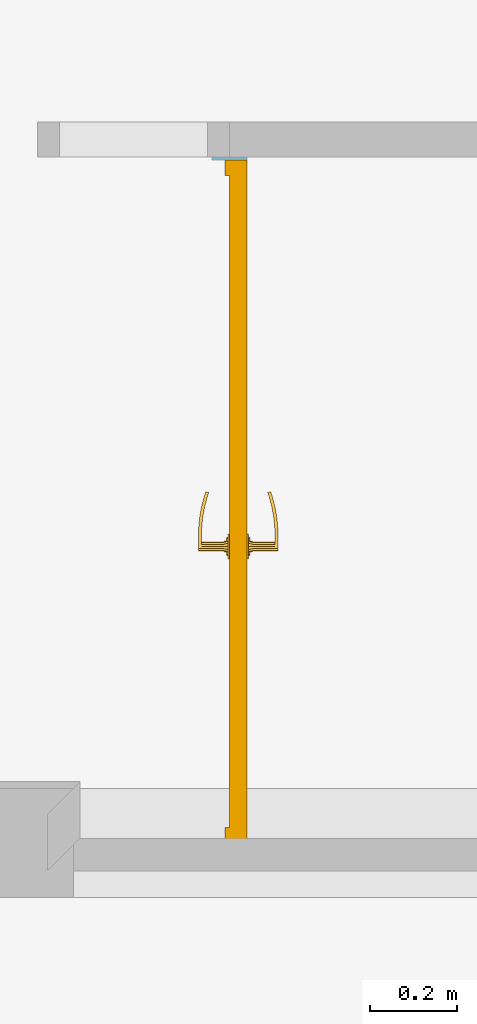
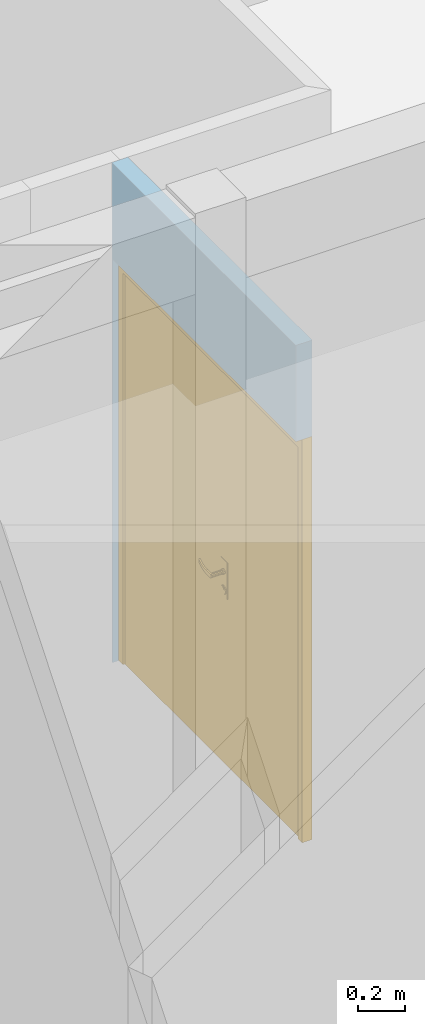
# One storey, part 41 of 91: 1 door, 1 opening, plus 1 element that does not belong to this part.
"""IFC2X3 building model written with IfcOpenShell, lengths in metres."""

from ifc_helpers import new_model, entity, si_unit, converted_unit, derived_unit, money_unit, direction, frame, origin_with_axes, origin_2d_with_axis, place, context, subcontext, project, spatial, polyline, rectangle, outline, extrude, open_shell, faceted_brep, surface_model, material, layer, layer_set, layer_usage, type_object, element, fill, save


model = new_model("IFC2X3")

# Units and contexts
model_context = context("Model", 3, precision=1e-05, world=origin_with_axes(), true_north=direction((0.0, 1.0)))
body_context = subcontext(model_context, "Body", "Model", "MODEL_VIEW")
ifc_project = project(units=[si_unit("LENGTHUNIT", "METRE"), si_unit("AREAUNIT", "SQUARE_METRE"), si_unit("VOLUMEUNIT", "CUBIC_METRE"), converted_unit("PLANEANGLEUNIT", "DEGREE", entity("IfcPlaneAngleMeasure", 0.0174532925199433), si_unit("PLANEANGLEUNIT", "RADIAN"), dimensions=[0, 0, 0, 0, 0, 0, 0]), money_unit("EUR"), converted_unit("TIMEUNIT", "Year", entity("IfcTimeMeasure", 31557600.0), si_unit("TIMEUNIT", "SECOND"), dimensions=[0, 0, 1, 0, 0, 0, 0]), si_unit("MASSUNIT", "GRAM", prefix="KILO"), si_unit("THERMODYNAMICTEMPERATUREUNIT", "DEGREE_CELSIUS"), si_unit("LUMINOUSINTENSITYUNIT", "LUMEN"), si_unit("ENERGYUNIT", "JOULE", prefix="MEGA"), derived_unit("THERMALCONDUCTANCEUNIT", [(si_unit("POWERUNIT", "WATT"), 1), (si_unit("LENGTHUNIT", "METRE"), -1), (si_unit("THERMODYNAMICTEMPERATUREUNIT", "KELVIN"), -1)]), derived_unit("SPECIFICHEATCAPACITYUNIT", [(si_unit("ENERGYUNIT", "JOULE"), 1), (si_unit("MASSUNIT", "GRAM", prefix="KILO"), -1), (si_unit("THERMODYNAMICTEMPERATUREUNIT", "KELVIN"), -1)]), derived_unit("MASSDENSITYUNIT", [(si_unit("MASSUNIT", "GRAM", prefix="KILO"), 1), (si_unit("VOLUMEUNIT", "CUBIC_METRE"), -1)])], contexts=[model_context])

# Site, building, storey
site_placement = place(None, origin_with_axes())
site = spatial("IfcSite", under=ifc_project, at=site_placement, Name="Site", CompositionType="ELEMENT")
building_placement = place(site_placement, origin_with_axes())
building = spatial("IfcBuilding", under=site, at=building_placement, Name="Bâtiment", CompositionType="ELEMENT")
storey_placement = place(building_placement, origin_with_axes())
storey = spatial("IfcBuildingStorey", under=building, at=storey_placement, Name="RDC", CompositionType="ELEMENT", Elevation=0.0)

# Wall, opening, door
ifc_material = material(Name="*PLAQUE DE PLATRE - CLOISON")
ifc_layer = layer(ifc_material, 0.08, ventilated="UNKNOWN")
ifc_layer_set = layer_set([ifc_layer], Name="*PLAQUE DE PLATRE - CLOISON 0.08")
ifc_layer_usage = layer_usage(ifc_layer_set, "AXIS2", "POSITIVE", 0.0)
wall_type = type_object("IfcWallType", Name="*PLAQUE DE PLATRE - CLOISON 80", PredefinedType="NOTDEFINED")
wall_placement = place(storey_placement, frame((43.94299999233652, -16.7575645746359, 0.0), z_axis=(0.0, 0.0, 1.0), x_axis=(0.0, 1.0, 0.0)))
wall = element("IfcWallStandardCase", 1, at=wall_placement, inside=storey, type_object=wall_type, material=ifc_layer_usage, Name="Cloison modulaire", context=body_context, shape_type="SweptSolid", body=[
    extrude(outline(polyline([(0.0, 0.0), (1.571002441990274, 0.0), (1.571002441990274, 0.0799999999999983), (0.0, 0.0799999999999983), (0.0, 0.0)])), origin_with_axes(), (0.0, 0.0, 1.0), 2.600000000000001),
])
opening_placement = place(wall_placement, frame((0.7820012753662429, 0.0, 0.0), z_axis=(0.0, 0.0, 1.0), x_axis=(1.0, 0.0, 0.0)))
opening = element("IfcOpeningElement", 2, at=opening_placement, cuts=wall, Name="Pi.03", context=body_context, shape_type="SweptSolid", body=[
    extrude(rectangle(XDim=1.564002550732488, YDim=2.1, at=origin_2d_with_axis()), frame((0.0, 0.0799999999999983, 1.05), z_axis=(0.0, 1.0, 0.0), x_axis=(1.0, 0.0, 0.0)), (0.0, 0.0, -1.0), 0.24),
])
door_style = type_object("IfcDoorStyle", Name="Porte double 27", ConstructionType="NOTDEFINED", OperationType="DOUBLE_DOOR_SINGLE_SWING", ParameterTakesPrecedence=False, Sizeable=False)
door_placement = place(opening_placement, frame((0.7820012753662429, 0.0, 0.0), z_axis=(0.0, 0.0, 1.0), x_axis=(-1.0, 0.0, 0.0)))
door = element("IfcDoor", 3, at=door_placement, inside=storey, type_object=door_style, Name="Pi.03", OverallHeight=2.1, OverallWidth=1.564, context=body_context, shape_type="SurfaceModel", body=[
    faceted_brep([(1.564002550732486, 0.0, 0.0), (1.564002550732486, -0.04999999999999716, 0.0), (1.529002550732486, -0.04999999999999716, 0.0), (1.529002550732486, 0.0, 0.0), (1.564002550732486, 0.0, 2.04), (1.564002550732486, -0.04999999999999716, 2.04), (1.529002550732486, -0.04999999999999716, 2.04), (1.529002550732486, 0.0, 2.04)], [[[0, 1, 2, 3]], [[4, 5, 1, 0]], [[1, 5, 6, 2]], [[3, 2, 6, 7]], [[0, 3, 7, 4]], [[7, 6, 5, 4]]]),
    faceted_brep([(0.0, 0.0, 0.0), (0.0, -0.04999999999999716, 0.0), (0.0, -0.04999999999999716, 2.04), (0.0, 0.0, 2.04), (0.03500000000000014, 0.0, 0.0), (0.03500000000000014, -0.04999999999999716, 0.0), (0.03500000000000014, -0.04999999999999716, 2.04), (0.03500000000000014, 0.0, 2.04)], [[[0, 1, 2, 3]], [[4, 5, 1, 0]], [[1, 5, 6, 2]], [[3, 2, 6, 7]], [[0, 3, 7, 4]], [[7, 6, 5, 4]]]),
    faceted_brep([(1.564002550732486, 0.0, 2.1), (1.564002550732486, -0.04999999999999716, 2.1), (1.564002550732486, -0.04999999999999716, 2.04), (1.564002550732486, 0.0, 2.04), (0.0, 0.0, 2.1), (0.0, -0.04999999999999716, 2.1), (0.0, -0.04999999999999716, 2.04), (0.03500000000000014, -0.04999999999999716, 2.04), (1.529002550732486, -0.04999999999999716, 2.04), (1.529002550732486, 0.0, 2.04), (0.03500000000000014, 0.0, 2.04), (0.0, 0.0, 2.04)], [[[0, 1, 2, 3]], [[4, 5, 1, 0]], [[1, 5, 6, 7, 8, 2]], [[3, 2, 8, 9]], [[0, 3, 9, 10, 11, 4]], [[11, 6, 5, 4]], [[10, 7, 6, 11]], [[9, 8, 7, 10]]]),
    faceted_brep([(0.9134999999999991, -0.03999999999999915, 1.06), (0.8565000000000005, -0.03999999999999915, 1.06), (0.8565000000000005, -0.04299999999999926, 1.06), (0.9134999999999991, -0.04299999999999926, 1.06), (0.9134999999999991, -0.03999999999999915, 0.87), (0.8565000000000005, -0.03999999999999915, 0.87), (0.8565000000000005, -0.04299999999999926, 0.87), (0.9134999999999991, -0.04299999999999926, 0.87)], [[[0, 1, 2, 3]], [[0, 4, 5, 1]], [[1, 5, 6, 2]], [[3, 2, 6, 7]], [[4, 0, 3, 7]], [[5, 4, 7, 6]]]),
    faceted_brep([(0.884999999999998, -0.1039999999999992, 0.99), (0.8900000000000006, -0.1039999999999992, 0.9913397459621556), (0.8900000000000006, -0.1109999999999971, 0.9913397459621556), (0.884999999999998, -0.1109999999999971, 0.99), (0.8599999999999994, -0.1039999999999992, 0.99), (0.8599999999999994, -0.1039999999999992, 1.01), (0.884999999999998, -0.1039999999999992, 1.01), (0.8900000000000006, -0.1039999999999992, 1.008660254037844), (0.8936602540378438, -0.1039999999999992, 1.005), (0.8949999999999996, -0.1039999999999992, 1.0), (0.8936602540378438, -0.1039999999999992, 0.995), (0.8936602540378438, -0.1109999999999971, 0.995), (0.8949999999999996, -0.1109999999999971, 1.0), (0.8936602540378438, -0.1109999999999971, 1.005), (0.8900000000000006, -0.1109999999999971, 1.008660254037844), (0.884999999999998, -0.1109999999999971, 1.01), (0.8599999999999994, -0.1109999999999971, 1.01), (0.8599999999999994, -0.1109999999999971, 0.99)], [[[0, 1, 2, 3]], [[0, 4, 5, 6, 7, 8, 9, 10, 1]], [[1, 10, 11, 2]], [[3, 2, 11, 12, 13, 14, 15, 16, 17]], [[4, 0, 3, 17]], [[5, 4, 17, 16]], [[6, 5, 16, 15]], [[7, 6, 15, 14]], [[8, 7, 14, 13]], [[9, 8, 13, 12]], [[10, 9, 12, 11]]]),
    surface_model("IfcShellBasedSurfaceModel", [(0.8599999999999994, -0.1039999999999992, 1.01), (0.8469017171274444, -0.1039999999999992, 1.009607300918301), (0.8465960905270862, -0.1109999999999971, 1.009607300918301), (0.8599999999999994, -0.1039999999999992, 0.99), (0.8469017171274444, -0.1039999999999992, 0.9903926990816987), (0.819890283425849, -0.1086635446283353, 1.008821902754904), (0.8599999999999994, -0.1109999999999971, 1.01), (0.8599999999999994, -0.1109999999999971, 0.99), (0.8208048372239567, -0.1017168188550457, 0.9911780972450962), (0.8208048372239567, -0.1017168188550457, 1.008821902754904), (0.819890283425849, -0.1086635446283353, 0.9911780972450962), (0.8465960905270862, -0.1109999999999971, 0.9903926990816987), (0.795006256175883, -0.09716783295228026, 0.9919634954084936), (0.795006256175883, -0.09716783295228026, 1.008036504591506), (0.7934897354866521, -0.1040084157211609, 1.008036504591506), (0.7934897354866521, -0.1040084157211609, 0.9919634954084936), (0.7697023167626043, -0.09038766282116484, 0.9927488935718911), (0.7697023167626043, -0.09038766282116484, 1.007251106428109), (0.7675953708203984, -0.09707004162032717, 1.007251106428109), (0.7675953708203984, -0.09707004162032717, 0.9927488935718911), (0.7618294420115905, -0.08752217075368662, 0.993), (0.7618294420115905, -0.08752217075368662, 1.007), (0.7595387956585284, -0.09413768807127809, 1.007), (0.7595387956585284, -0.09413768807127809, 0.993)], [open_shell([[[0, 1, 2]], [[0, 3, 4, 1]], [[1, 5, 2]], [[0, 2, 6]], [[4, 3, 7]], [[1, 4, 8, 9]], [[1, 9, 5]], [[2, 5, 10, 11]], [[6, 2, 11, 7]], [[4, 7, 11]], [[8, 4, 11]], [[9, 8, 12, 13]], [[9, 14, 5]], [[5, 14, 15, 10]], [[8, 11, 10]], [[12, 8, 10]], [[13, 12, 16, 17]], [[9, 13, 14]], [[14, 18, 19, 15]], [[12, 10, 15]], [[16, 12, 15]], [[17, 16, 20, 21]], [[13, 17, 18]], [[13, 18, 14]], [[18, 22, 23, 19]], [[16, 15, 19]], [[20, 16, 19]], [[21, 20, 23, 22]], [[17, 21, 22]], [[17, 22, 18]], [[20, 19, 23]]])]),
    faceted_brep([(0.8746076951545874, -0.05299999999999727, 0.994), (0.8729999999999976, -0.05299999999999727, 1.0), (0.8719999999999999, -0.04299999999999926, 1.0), (0.8737416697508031, -0.04299999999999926, 0.9935), (0.8789999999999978, -0.05299999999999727, 0.9896076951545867), (0.884999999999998, -0.05299999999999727, 0.988), (0.8909999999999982, -0.05299999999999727, 0.9896076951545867), (0.8953923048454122, -0.05299999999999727, 0.994), (0.8969999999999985, -0.05299999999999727, 1.0), (0.8953923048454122, -0.05299999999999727, 1.006), (0.8909999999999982, -0.05299999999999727, 1.010392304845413), (0.884999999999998, -0.05299999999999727, 1.012), (0.8789999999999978, -0.05299999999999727, 1.010392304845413), (0.8746076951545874, -0.05299999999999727, 1.006), (0.8737416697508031, -0.04299999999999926, 1.0065), (0.878499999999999, -0.04299999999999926, 1.011258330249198), (0.884999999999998, -0.04299999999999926, 1.013), (0.8915000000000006, -0.04299999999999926, 1.011258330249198), (0.8962583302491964, -0.04299999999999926, 1.0065), (0.8979999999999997, -0.04299999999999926, 1.0), (0.8962583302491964, -0.04299999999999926, 0.9934999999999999), (0.8915000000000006, -0.04299999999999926, 0.9887416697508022), (0.884999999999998, -0.04299999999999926, 0.987), (0.878499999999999, -0.04299999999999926, 0.9887416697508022)], [[[0, 1, 2, 3]], [[1, 0, 4, 5, 6, 7, 8, 9, 10, 11, 12, 13]], [[1, 13, 14, 2]], [[2, 14, 15, 16, 17, 18, 19, 20, 21, 22, 23, 3]], [[4, 0, 3, 23]], [[5, 4, 23, 22]], [[6, 5, 22, 21]], [[7, 6, 21, 20]], [[8, 7, 20, 19]], [[9, 8, 19, 18]], [[10, 9, 18, 17]], [[11, 10, 17, 16]], [[12, 11, 16, 15]], [[13, 12, 15, 14]]]),
    faceted_brep([(0.86767949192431, -0.04699999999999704, 0.895), (0.8649999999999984, -0.04699999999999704, 0.905), (0.8629999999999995, -0.04299999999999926, 0.905), (0.8659474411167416, -0.04299999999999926, 0.894), (0.875, -0.04699999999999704, 0.8876794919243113), (0.884999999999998, -0.04699999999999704, 0.885), (0.8949999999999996, -0.04699999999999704, 0.8876794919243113), (0.9023205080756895, -0.04699999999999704, 0.895), (0.9049999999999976, -0.04699999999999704, 0.905), (0.9023205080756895, -0.04699999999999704, 0.915), (0.8949999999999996, -0.04699999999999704, 0.9223205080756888), (0.884999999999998, -0.04699999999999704, 0.925), (0.875, -0.04699999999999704, 0.9223205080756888), (0.86767949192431, -0.04699999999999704, 0.915), (0.8659474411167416, -0.04299999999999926, 0.916), (0.8739999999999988, -0.04299999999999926, 0.9240525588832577), (0.884999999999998, -0.04299999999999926, 0.927), (0.8960000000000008, -0.04299999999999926, 0.9240525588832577), (0.904052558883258, -0.04299999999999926, 0.916), (0.907, -0.04299999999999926, 0.905), (0.904052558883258, -0.04299999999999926, 0.894), (0.8960000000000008, -0.04299999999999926, 0.8859474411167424), (0.884999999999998, -0.04299999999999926, 0.883), (0.8739999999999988, -0.04299999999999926, 0.8859474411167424)], [[[0, 1, 2, 3]], [[1, 0, 4, 5, 6, 7, 8, 9, 10, 11, 12, 13]], [[1, 13, 14, 2]], [[2, 14, 15, 16, 17, 18, 19, 20, 21, 22, 23, 3]], [[4, 0, 3, 23]], [[5, 4, 23, 22]], [[6, 5, 22, 21]], [[7, 6, 21, 20]], [[8, 7, 20, 19]], [[9, 8, 19, 18]], [[10, 9, 18, 17]], [[11, 10, 17, 16]], [[12, 11, 16, 15]], [[13, 12, 15, 14]]]),
    faceted_brep([(0.8800502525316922, -0.04899999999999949, 0.9090502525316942), (0.8780000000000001, -0.04899999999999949, 0.914), (0.8769999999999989, -0.04699999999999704, 0.914), (0.8793431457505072, -0.04699999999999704, 0.9083431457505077), (0.884999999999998, -0.04899999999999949, 0.907), (0.8899497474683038, -0.04899999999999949, 0.9090502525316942), (0.8919999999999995, -0.04899999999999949, 0.914), (0.8899497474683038, -0.04899999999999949, 0.9189497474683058), (0.884999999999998, -0.04899999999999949, 0.921), (0.8800502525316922, -0.04899999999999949, 0.9189497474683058), (0.8793431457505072, -0.04699999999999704, 0.9196568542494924), (0.884999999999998, -0.04699999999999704, 0.922), (0.8906568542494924, -0.04699999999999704, 0.9196568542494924), (0.8930000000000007, -0.04699999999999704, 0.914), (0.8906568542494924, -0.04699999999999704, 0.9083431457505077), (0.884999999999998, -0.04699999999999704, 0.906)], [[[0, 1, 2, 3]], [[1, 0, 4, 5, 6, 7, 8, 9]], [[1, 9, 10, 2]], [[2, 10, 11, 12, 13, 14, 15, 3]], [[4, 0, 3, 15]], [[5, 4, 15, 14]], [[6, 5, 14, 13]], [[7, 6, 13, 12]], [[8, 7, 12, 11]], [[9, 8, 11, 10]]]),
    faceted_brep([(0.884999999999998, -0.05299999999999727, 1.01), (0.879999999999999, -0.05299999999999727, 1.008660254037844), (0.879999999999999, -0.1039999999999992, 1.008660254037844), (0.884999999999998, -0.1039999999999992, 1.01), (0.8900000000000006, -0.05299999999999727, 1.008660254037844), (0.8936602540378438, -0.05299999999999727, 1.005), (0.8949999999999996, -0.05299999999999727, 1.0), (0.8936602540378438, -0.05299999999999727, 0.995), (0.8900000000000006, -0.05299999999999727, 0.9913397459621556), (0.884999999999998, -0.05299999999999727, 0.99), (0.879999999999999, -0.05299999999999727, 0.9913397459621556), (0.8763397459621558, -0.05299999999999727, 0.995), (0.875, -0.05299999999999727, 1.0), (0.8763397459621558, -0.05299999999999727, 1.005), (0.8763397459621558, -0.1039999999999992, 1.005), (0.875, -0.1039999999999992, 1.0), (0.8763397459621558, -0.1039999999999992, 0.995), (0.879999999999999, -0.1039999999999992, 0.9913397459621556), (0.884999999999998, -0.1039999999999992, 0.99), (0.8900000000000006, -0.1039999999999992, 0.9913397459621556), (0.8936602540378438, -0.1039999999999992, 0.995), (0.8949999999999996, -0.1039999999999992, 1.0), (0.8936602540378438, -0.1039999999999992, 1.005), (0.8900000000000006, -0.1039999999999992, 1.008660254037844)], [[[0, 1, 2, 3]], [[0, 4, 5, 6, 7, 8, 9, 10, 11, 12, 13, 1]], [[1, 13, 14, 2]], [[3, 2, 14, 15, 16, 17, 18, 19, 20, 21, 22, 23]], [[4, 0, 3, 23]], [[5, 4, 23, 22]], [[6, 5, 22, 21]], [[7, 6, 21, 20]], [[8, 7, 20, 19]], [[9, 8, 19, 18]], [[10, 9, 18, 17]], [[11, 10, 17, 16]], [[12, 11, 16, 15]], [[13, 12, 15, 14]]]),
    faceted_brep([(0.9134999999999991, 0.0, 1.06), (0.9134999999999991, 0.003000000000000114, 1.06), (0.8565000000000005, 0.003000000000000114, 1.06), (0.8565000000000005, 0.0, 1.06), (0.9134999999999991, 0.0, 0.87), (0.9134999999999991, 0.003000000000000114, 0.87), (0.8565000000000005, 0.003000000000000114, 0.87), (0.8565000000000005, 0.0, 0.87)], [[[0, 1, 2, 3]], [[4, 5, 1, 0]], [[1, 5, 6, 2]], [[3, 2, 6, 7]], [[0, 3, 7, 4]], [[7, 6, 5, 4]]]),
    faceted_brep([(0.884999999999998, 0.06400000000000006, 0.99), (0.884999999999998, 0.07099999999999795, 0.99), (0.8900000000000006, 0.07099999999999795, 0.9913397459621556), (0.8900000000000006, 0.06400000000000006, 0.9913397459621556), (0.8599999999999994, 0.06400000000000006, 0.99), (0.8599999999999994, 0.07099999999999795, 0.99), (0.8599999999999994, 0.07099999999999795, 1.01), (0.884999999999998, 0.07099999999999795, 1.01), (0.8900000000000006, 0.07099999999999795, 1.008660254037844), (0.8936602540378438, 0.07099999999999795, 1.005), (0.8949999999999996, 0.07099999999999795, 1.0), (0.8936602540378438, 0.07099999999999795, 0.995), (0.8936602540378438, 0.06400000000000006, 0.995), (0.8949999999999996, 0.06400000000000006, 1.0), (0.8936602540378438, 0.06400000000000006, 1.005), (0.8900000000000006, 0.06400000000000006, 1.008660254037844), (0.884999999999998, 0.06400000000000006, 1.01), (0.8599999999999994, 0.06400000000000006, 1.01)], [[[0, 1, 2, 3]], [[4, 5, 1, 0]], [[1, 5, 6, 7, 8, 9, 10, 11, 2]], [[3, 2, 11, 12]], [[0, 3, 12, 13, 14, 15, 16, 17, 4]], [[17, 6, 5, 4]], [[16, 7, 6, 17]], [[15, 8, 7, 16]], [[14, 9, 8, 15]], [[13, 10, 9, 14]], [[12, 11, 10, 13]]]),
    surface_model("IfcShellBasedSurfaceModel", [(0.8599999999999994, 0.06400000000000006, 1.01), (0.8465960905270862, 0.07099999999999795, 1.009607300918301), (0.8469017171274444, 0.06400000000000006, 1.009607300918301), (0.8599999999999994, 0.07099999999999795, 1.01), (0.819890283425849, 0.06866354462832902, 1.008821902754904), (0.8469017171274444, 0.06400000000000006, 0.9903926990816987), (0.8599999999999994, 0.06400000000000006, 0.99), (0.8599999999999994, 0.07099999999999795, 0.99), (0.8465960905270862, 0.07099999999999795, 0.9903926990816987), (0.819890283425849, 0.06866354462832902, 0.9911780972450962), (0.8208048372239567, 0.06171681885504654, 1.008821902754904), (0.8208048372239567, 0.06171681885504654, 0.9911780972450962), (0.7934897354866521, 0.06400841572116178, 0.9919634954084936), (0.7934897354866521, 0.06400841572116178, 1.008036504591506), (0.795006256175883, 0.05716783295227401, 1.008036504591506), (0.795006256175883, 0.05716783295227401, 0.9919634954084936), (0.7675953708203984, 0.05707004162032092, 0.9927488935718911), (0.7675953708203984, 0.05707004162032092, 1.007251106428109), (0.7697023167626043, 0.05038766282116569, 1.007251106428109), (0.7697023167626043, 0.05038766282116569, 0.9927488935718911), (0.7595387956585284, 0.05413768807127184, 0.993), (0.7595387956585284, 0.05413768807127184, 1.007), (0.7618294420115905, 0.04752217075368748, 1.007), (0.7618294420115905, 0.04752217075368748, 0.993)], [open_shell([[[0, 1, 2]], [[0, 3, 1]], [[2, 1, 4]], [[0, 2, 5, 6]], [[3, 7, 8, 1]], [[1, 8, 9, 4]], [[2, 4, 10]], [[2, 10, 11, 5]], [[5, 7, 6]], [[5, 8, 7]], [[11, 9, 8]], [[4, 9, 12, 13]], [[10, 4, 13]], [[10, 14, 15, 11]], [[11, 8, 5]], [[15, 9, 11]], [[15, 12, 9]], [[13, 12, 16, 17]], [[10, 13, 14]], [[14, 18, 19, 15]], [[19, 12, 15]], [[19, 16, 12]], [[17, 16, 20, 21]], [[14, 13, 17]], [[14, 17, 18]], [[18, 22, 23, 19]], [[23, 16, 19]], [[23, 20, 16]], [[22, 21, 20, 23]], [[18, 17, 21]], [[18, 21, 22]]])]),
    faceted_brep([(0.8746076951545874, 0.01299999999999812, 0.994), (0.8737416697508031, 0.003000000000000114, 0.9935), (0.8719999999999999, 0.003000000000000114, 1.0), (0.8729999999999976, 0.01299999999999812, 1.0), (0.8789999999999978, 0.01299999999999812, 0.9896076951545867), (0.878499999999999, 0.003000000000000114, 0.9887416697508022), (0.884999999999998, 0.003000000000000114, 0.987), (0.8915000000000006, 0.003000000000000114, 0.9887416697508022), (0.8962583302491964, 0.003000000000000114, 0.9934999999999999), (0.8979999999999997, 0.003000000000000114, 1.0), (0.8962583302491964, 0.003000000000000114, 1.0065), (0.8915000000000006, 0.003000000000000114, 1.011258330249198), (0.884999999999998, 0.003000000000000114, 1.013), (0.878499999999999, 0.003000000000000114, 1.011258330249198), (0.8737416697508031, 0.003000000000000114, 1.0065), (0.8746076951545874, 0.01299999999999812, 1.006), (0.8789999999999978, 0.01299999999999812, 1.010392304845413), (0.884999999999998, 0.01299999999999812, 1.012), (0.8909999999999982, 0.01299999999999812, 1.010392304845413), (0.8953923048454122, 0.01299999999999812, 1.006), (0.8969999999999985, 0.01299999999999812, 1.0), (0.8953923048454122, 0.01299999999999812, 0.994), (0.8909999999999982, 0.01299999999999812, 0.9896076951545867), (0.884999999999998, 0.01299999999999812, 0.988)], [[[0, 1, 2, 3]], [[4, 5, 1, 0]], [[2, 1, 5, 6, 7, 8, 9, 10, 11, 12, 13, 14]], [[3, 2, 14, 15]], [[3, 15, 16, 17, 18, 19, 20, 21, 22, 23, 4, 0]], [[23, 6, 5, 4]], [[22, 7, 6, 23]], [[21, 8, 7, 22]], [[20, 9, 8, 21]], [[19, 10, 9, 20]], [[18, 11, 10, 19]], [[17, 12, 11, 18]], [[16, 13, 12, 17]], [[15, 14, 13, 16]]]),
    faceted_brep([(0.86767949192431, 0.006999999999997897, 0.895), (0.8659474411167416, 0.003000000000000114, 0.894), (0.8629999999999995, 0.003000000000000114, 0.905), (0.8649999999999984, 0.006999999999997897, 0.905), (0.875, 0.006999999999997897, 0.8876794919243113), (0.8739999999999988, 0.003000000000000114, 0.8859474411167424), (0.884999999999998, 0.003000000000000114, 0.883), (0.8960000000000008, 0.003000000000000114, 0.8859474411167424), (0.904052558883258, 0.003000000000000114, 0.894), (0.907, 0.003000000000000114, 0.905), (0.904052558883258, 0.003000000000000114, 0.916), (0.8960000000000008, 0.003000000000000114, 0.9240525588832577), (0.884999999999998, 0.003000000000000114, 0.927), (0.8739999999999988, 0.003000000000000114, 0.9240525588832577), (0.8659474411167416, 0.003000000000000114, 0.916), (0.86767949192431, 0.006999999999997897, 0.915), (0.875, 0.006999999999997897, 0.9223205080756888), (0.884999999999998, 0.006999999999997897, 0.925), (0.8949999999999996, 0.006999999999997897, 0.9223205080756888), (0.9023205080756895, 0.006999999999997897, 0.915), (0.9049999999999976, 0.006999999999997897, 0.905), (0.9023205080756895, 0.006999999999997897, 0.895), (0.8949999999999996, 0.006999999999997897, 0.8876794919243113), (0.884999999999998, 0.006999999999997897, 0.885)], [[[0, 1, 2, 3]], [[4, 5, 1, 0]], [[2, 1, 5, 6, 7, 8, 9, 10, 11, 12, 13, 14]], [[3, 2, 14, 15]], [[3, 15, 16, 17, 18, 19, 20, 21, 22, 23, 4, 0]], [[23, 6, 5, 4]], [[22, 7, 6, 23]], [[21, 8, 7, 22]], [[20, 9, 8, 21]], [[19, 10, 9, 20]], [[18, 11, 10, 19]], [[17, 12, 11, 18]], [[16, 13, 12, 17]], [[15, 14, 13, 16]]]),
    faceted_brep([(0.8800502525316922, 0.009000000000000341, 0.9090502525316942), (0.8793431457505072, 0.006999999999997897, 0.9083431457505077), (0.8769999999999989, 0.006999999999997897, 0.914), (0.8780000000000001, 0.009000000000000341, 0.914), (0.884999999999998, 0.009000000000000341, 0.907), (0.884999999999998, 0.006999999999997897, 0.906), (0.8906568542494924, 0.006999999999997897, 0.9083431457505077), (0.8930000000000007, 0.006999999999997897, 0.914), (0.8906568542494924, 0.006999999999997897, 0.9196568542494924), (0.884999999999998, 0.006999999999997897, 0.922), (0.8793431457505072, 0.006999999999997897, 0.9196568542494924), (0.8800502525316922, 0.009000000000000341, 0.9189497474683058), (0.884999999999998, 0.009000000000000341, 0.921), (0.8899497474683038, 0.009000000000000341, 0.9189497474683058), (0.8919999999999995, 0.009000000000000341, 0.914), (0.8899497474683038, 0.009000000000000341, 0.9090502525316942)], [[[0, 1, 2, 3]], [[4, 5, 1, 0]], [[2, 1, 5, 6, 7, 8, 9, 10]], [[3, 2, 10, 11]], [[3, 11, 12, 13, 14, 15, 4, 0]], [[15, 6, 5, 4]], [[14, 7, 6, 15]], [[13, 8, 7, 14]], [[12, 9, 8, 13]], [[11, 10, 9, 12]]]),
    faceted_brep([(0.884999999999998, 0.01299999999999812, 1.01), (0.884999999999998, 0.06400000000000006, 1.01), (0.879999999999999, 0.06400000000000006, 1.008660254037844), (0.879999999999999, 0.01299999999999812, 1.008660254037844), (0.8900000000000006, 0.01299999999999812, 1.008660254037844), (0.8900000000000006, 0.06400000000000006, 1.008660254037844), (0.8936602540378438, 0.06400000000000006, 1.005), (0.8949999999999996, 0.06400000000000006, 1.0), (0.8936602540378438, 0.06400000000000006, 0.995), (0.8900000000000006, 0.06400000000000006, 0.9913397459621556), (0.884999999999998, 0.06400000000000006, 0.99), (0.879999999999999, 0.06400000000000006, 0.9913397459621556), (0.8763397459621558, 0.06400000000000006, 0.995), (0.875, 0.06400000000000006, 1.0), (0.8763397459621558, 0.06400000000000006, 1.005), (0.8763397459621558, 0.01299999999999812, 1.005), (0.875, 0.01299999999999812, 1.0), (0.8763397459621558, 0.01299999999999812, 0.995), (0.879999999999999, 0.01299999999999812, 0.9913397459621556), (0.884999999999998, 0.01299999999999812, 0.99), (0.8900000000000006, 0.01299999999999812, 0.9913397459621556), (0.8936602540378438, 0.01299999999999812, 0.995), (0.8949999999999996, 0.01299999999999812, 1.0), (0.8936602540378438, 0.01299999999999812, 1.005)], [[[0, 1, 2, 3]], [[4, 5, 1, 0]], [[1, 5, 6, 7, 8, 9, 10, 11, 12, 13, 14, 2]], [[3, 2, 14, 15]], [[0, 3, 15, 16, 17, 18, 19, 20, 21, 22, 23, 4]], [[23, 6, 5, 4]], [[22, 7, 6, 23]], [[21, 8, 7, 22]], [[20, 9, 8, 21]], [[19, 10, 9, 20]], [[18, 11, 10, 19]], [[17, 12, 11, 18]], [[16, 13, 12, 17]], [[15, 14, 13, 16]]]),
    faceted_brep([(0.03499999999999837, 0.0, 0.0), (0.9349999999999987, 0.0, 0.0), (0.9349999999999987, -0.03999999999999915, 0.0), (0.03499999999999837, -0.03999999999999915, 0.0), (0.03499999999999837, 0.0, 2.04), (0.9349999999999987, 0.0, 2.04), (0.9349999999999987, -0.03999999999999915, 2.04), (0.03499999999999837, -0.03999999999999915, 2.04)], [[[0, 1, 2, 3]], [[0, 4, 5, 1]], [[1, 5, 6, 2]], [[3, 2, 6, 7]], [[4, 0, 3, 7]], [[5, 4, 7, 6]]]),
    faceted_brep([(1.529002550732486, 0.0, 0.0), (1.529002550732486, -0.03999999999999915, 0.0), (0.9349999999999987, -0.03999999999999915, 0.0), (0.9349999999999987, 0.0, 0.0), (1.529002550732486, 0.0, 2.04), (1.529002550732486, -0.03999999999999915, 2.04), (0.9349999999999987, -0.03999999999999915, 2.04), (0.9349999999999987, 0.0, 2.04)], [[[0, 1, 2, 3]], [[4, 5, 1, 0]], [[1, 5, 6, 2]], [[3, 2, 6, 7]], [[0, 3, 7, 4]], [[7, 6, 5, 4]]]),
])
fill(opening, door)

save(model, "model.ifc")
